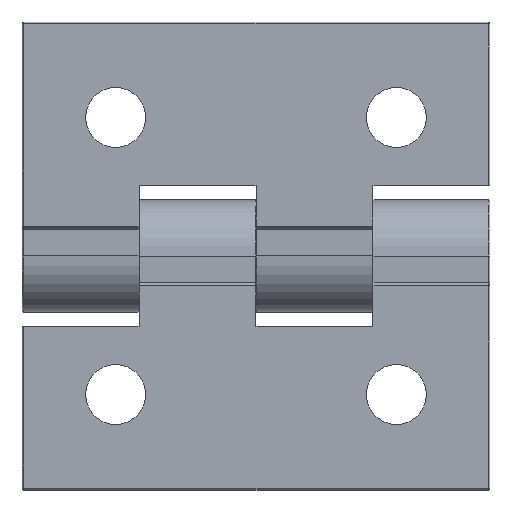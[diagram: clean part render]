
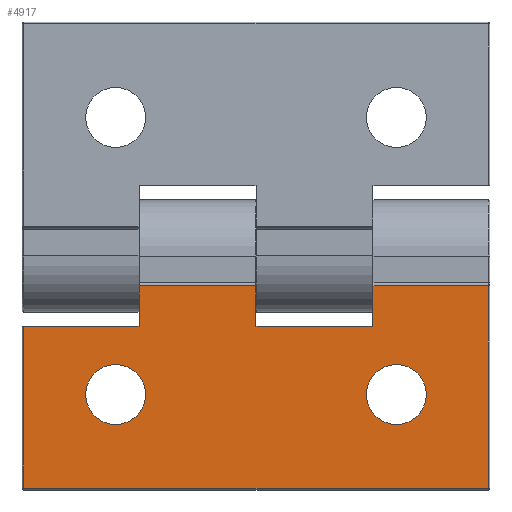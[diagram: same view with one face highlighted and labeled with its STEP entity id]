
A CAD part, front view. The second image highlights one B-rep face of the part: STEP entity #4917.
In plain terms, the highlighted planar face has unit normal (0, -1, 0).
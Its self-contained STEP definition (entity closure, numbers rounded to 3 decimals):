
#94 = CIRCLE ( 'NONE', #2763, 3.2 ) ;
#217 = DIRECTION ( 'NONE',  ( 0., 1., 0. ) ) ;
#272 = DIRECTION ( 'NONE',  ( 0., 0., 1. ) ) ;
#312 = CARTESIAN_POINT ( 'NONE',  ( 12.5, 0., -4.5 ) ) ;
#422 = VECTOR ( 'NONE', #3103, 1000. ) ;
#489 = FACE_BOUND ( 'NONE', #5097, .T. ) ;
#501 = LINE ( 'NONE', #2254, #4794 ) ;
#538 = CARTESIAN_POINT ( 'NONE',  ( -12.5, 0., -4.5 ) ) ;
#627 = DIRECTION ( 'NONE',  ( -1., 0., 0. ) ) ;
#651 = VECTOR ( 'NONE', #1811, 1000. ) ;
#665 = VERTEX_POINT ( 'NONE', #5276 ) ;
#704 = CARTESIAN_POINT ( 'NONE',  ( -24.8, 0., -4.5 ) ) ;
#714 = DIRECTION ( 'NONE',  ( -1., 0., 0. ) ) ;
#759 = DIRECTION ( 'NONE',  ( 0., 1., 0. ) ) ;
#765 = VERTEX_POINT ( 'NONE', #3257 ) ;
#904 = EDGE_LOOP ( 'NONE', ( #5105, #1541, #3007, #2299, #1287, #3672, #1771, #3837, #3342, #4576 ) ) ;
#907 = CARTESIAN_POINT ( 'NONE',  ( 24.8, 0., -21.8 ) ) ;
#1037 = VERTEX_POINT ( 'NONE', #4488 ) ;
#1169 = CARTESIAN_POINT ( 'NONE',  ( 25., 0., 0. ) ) ;
#1178 = CARTESIAN_POINT ( 'NONE',  ( -12.5, 0., -4.5 ) ) ;
#1287 = ORIENTED_EDGE ( 'NONE', *, *, #2827, .T. ) ;
#1319 = LINE ( 'NONE', #3632, #2052 ) ;
#1358 = EDGE_CURVE ( 'NONE', #3000, #5016, #2992, .T. ) ;
#1541 = ORIENTED_EDGE ( 'NONE', *, *, #4682, .T. ) ;
#1571 = DIRECTION ( 'NONE',  ( 0., 1., 0. ) ) ;
#1572 = EDGE_CURVE ( 'NONE', #1037, #2503, #2071, .T. ) ;
#1578 = DIRECTION ( 'NONE',  ( 0., 1., 0. ) ) ;
#1657 = LINE ( 'NONE', #2703, #422 ) ;
#1671 = ORIENTED_EDGE ( 'NONE', *, *, #2454, .T. ) ;
#1714 = EDGE_CURVE ( 'NONE', #5016, #3000, #4606, .T. ) ;
#1723 = VECTOR ( 'NONE', #3551, 1000. ) ;
#1771 = ORIENTED_EDGE ( 'NONE', *, *, #3188, .T. ) ;
#1811 = DIRECTION ( 'NONE',  ( 0., 0., 1. ) ) ;
#1826 = EDGE_LOOP ( 'NONE', ( #4435, #4458 ) ) ;
#1892 = EDGE_CURVE ( 'NONE', #4384, #2877, #3704, .T. ) ;
#1934 = DIRECTION ( 'NONE',  ( 0., 0., 1. ) ) ;
#1935 = VECTOR ( 'NONE', #3471, 1000. ) ;
#2052 = VECTOR ( 'NONE', #714, 1000. ) ;
#2071 = LINE ( 'NONE', #538, #1935 ) ;
#2191 = AXIS2_PLACEMENT_3D ( 'NONE', #4086, #1571, #4502 ) ;
#2254 = CARTESIAN_POINT ( 'NONE',  ( -24.8, 0., -22. ) ) ;
#2277 = EDGE_CURVE ( 'NONE', #765, #3390, #2855, .T. ) ;
#2299 = ORIENTED_EDGE ( 'NONE', *, *, #2277, .T. ) ;
#2432 = CARTESIAN_POINT ( 'NONE',  ( 15., 0., -11.8 ) ) ;
#2454 = EDGE_CURVE ( 'NONE', #665, #2566, #3556, .T. ) ;
#2462 = VECTOR ( 'NONE', #4526, 1000. ) ;
#2463 = EDGE_CURVE ( 'NONE', #2566, #665, #94, .T. ) ;
#2503 = VERTEX_POINT ( 'NONE', #1178 ) ;
#2566 = VERTEX_POINT ( 'NONE', #4578 ) ;
#2677 = VERTEX_POINT ( 'NONE', #4644 ) ;
#2703 = CARTESIAN_POINT ( 'NONE',  ( -12.5, 0., -4.5 ) ) ;
#2732 = CARTESIAN_POINT ( 'NONE',  ( -15., 0., -11.8 ) ) ;
#2763 = AXIS2_PLACEMENT_3D ( 'NONE', #2432, #5335, #2857 ) ;
#2827 = EDGE_CURVE ( 'NONE', #3390, #4384, #5203, .T. ) ;
#2848 = PLANE ( 'NONE',  #3756 ) ;
#2855 = LINE ( 'NONE', #4370, #1723 ) ;
#2857 = DIRECTION ( 'NONE',  ( 0., 0., 1. ) ) ;
#2877 = VERTEX_POINT ( 'NONE', #5162 ) ;
#2992 = CIRCLE ( 'NONE', #5219, 3.2 ) ;
#3000 = VERTEX_POINT ( 'NONE', #3102 ) ;
#3007 = ORIENTED_EDGE ( 'NONE', *, *, #4104, .T. ) ;
#3014 = EDGE_CURVE ( 'NONE', #5155, #4193, #5137, .T. ) ;
#3056 = VECTOR ( 'NONE', #627, 1000. ) ;
#3102 = CARTESIAN_POINT ( 'NONE',  ( -15., 0., -8.6 ) ) ;
#3103 = DIRECTION ( 'NONE',  ( -1., 0., 0. ) ) ;
#3112 = DIRECTION ( 'NONE',  ( 0., 0., -1. ) ) ;
#3119 = VECTOR ( 'NONE', #5323, 1000. ) ;
#3136 = DIRECTION ( 'NONE',  ( 0., 0., 1. ) ) ;
#3188 = EDGE_CURVE ( 'NONE', #2877, #5155, #5330, .T. ) ;
#3257 = CARTESIAN_POINT ( 'NONE',  ( -24.8, 0., -21.8 ) ) ;
#3312 = VECTOR ( 'NONE', #272, 1000. ) ;
#3342 = ORIENTED_EDGE ( 'NONE', *, *, #3722, .T. ) ;
#3390 = VERTEX_POINT ( 'NONE', #907 ) ;
#3435 = LINE ( 'NONE', #3577, #3312 ) ;
#3450 = CARTESIAN_POINT ( 'NONE',  ( 12.5, 0., -4.5 ) ) ;
#3471 = DIRECTION ( 'NONE',  ( 0., 0., -1. ) ) ;
#3540 = CARTESIAN_POINT ( 'NONE',  ( 0., 0., -4.5 ) ) ;
#3551 = DIRECTION ( 'NONE',  ( 1., 0., 0. ) ) ;
#3556 = CIRCLE ( 'NONE', #2191, 3.2 ) ;
#3577 = CARTESIAN_POINT ( 'NONE',  ( 0., 0., -4.5 ) ) ;
#3632 = CARTESIAN_POINT ( 'NONE',  ( 25., 0., -0.2 ) ) ;
#3672 = ORIENTED_EDGE ( 'NONE', *, *, #1892, .T. ) ;
#3697 = FACE_OUTER_BOUND ( 'NONE', #904, .T. ) ;
#3704 = LINE ( 'NONE', #5357, #2462 ) ;
#3722 = EDGE_CURVE ( 'NONE', #4193, #2677, #3435, .T. ) ;
#3756 = AXIS2_PLACEMENT_3D ( 'NONE', #1169, #1578, #4512 ) ;
#3837 = ORIENTED_EDGE ( 'NONE', *, *, #3014, .T. ) ;
#4086 = CARTESIAN_POINT ( 'NONE',  ( 15., 0., -11.8 ) ) ;
#4104 = EDGE_CURVE ( 'NONE', #4824, #765, #501, .T. ) ;
#4193 = VERTEX_POINT ( 'NONE', #4798 ) ;
#4316 = CARTESIAN_POINT ( 'NONE',  ( 24.8, 0., 0. ) ) ;
#4370 = CARTESIAN_POINT ( 'NONE',  ( 25., 0., -21.8 ) ) ;
#4384 = VERTEX_POINT ( 'NONE', #5381 ) ;
#4435 = ORIENTED_EDGE ( 'NONE', *, *, #1358, .T. ) ;
#4458 = ORIENTED_EDGE ( 'NONE', *, *, #1714, .T. ) ;
#4488 = CARTESIAN_POINT ( 'NONE',  ( -12.5, 0., -0.2 ) ) ;
#4502 = DIRECTION ( 'NONE',  ( 0., 0., 1. ) ) ;
#4512 = DIRECTION ( 'NONE',  ( 0., 0., 1. ) ) ;
#4526 = DIRECTION ( 'NONE',  ( -1., 0., 0. ) ) ;
#4576 = ORIENTED_EDGE ( 'NONE', *, *, #5401, .T. ) ;
#4578 = CARTESIAN_POINT ( 'NONE',  ( 15., 0., -8.6 ) ) ;
#4600 = CARTESIAN_POINT ( 'NONE',  ( -15., 0., -15. ) ) ;
#4606 = CIRCLE ( 'NONE', #5394, 3.2 ) ;
#4644 = CARTESIAN_POINT ( 'NONE',  ( 0., 0., -0.2 ) ) ;
#4682 = EDGE_CURVE ( 'NONE', #2503, #4824, #1657, .T. ) ;
#4752 = CARTESIAN_POINT ( 'NONE',  ( -15., 0., -11.8 ) ) ;
#4794 = VECTOR ( 'NONE', #3112, 1000. ) ;
#4798 = CARTESIAN_POINT ( 'NONE',  ( 0., 0., -4.5 ) ) ;
#4824 = VERTEX_POINT ( 'NONE', #704 ) ;
#4915 = FACE_BOUND ( 'NONE', #1826, .T. ) ;
#4917 = ADVANCED_FACE ( 'NONE', ( #4915, #489, #3697 ), #2848, .F. ) ;
#5016 = VERTEX_POINT ( 'NONE', #4600 ) ;
#5097 = EDGE_LOOP ( 'NONE', ( #5277, #1671 ) ) ;
#5105 = ORIENTED_EDGE ( 'NONE', *, *, #1572, .T. ) ;
#5137 = LINE ( 'NONE', #3540, #3056 ) ;
#5155 = VERTEX_POINT ( 'NONE', #3450 ) ;
#5162 = CARTESIAN_POINT ( 'NONE',  ( 12.5, 0., -0.2 ) ) ;
#5203 = LINE ( 'NONE', #4316, #651 ) ;
#5219 = AXIS2_PLACEMENT_3D ( 'NONE', #4752, #759, #1934 ) ;
#5276 = CARTESIAN_POINT ( 'NONE',  ( 15., 0., -15. ) ) ;
#5277 = ORIENTED_EDGE ( 'NONE', *, *, #2463, .T. ) ;
#5323 = DIRECTION ( 'NONE',  ( 0., 0., -1. ) ) ;
#5330 = LINE ( 'NONE', #312, #3119 ) ;
#5335 = DIRECTION ( 'NONE',  ( 0., 1., 0. ) ) ;
#5357 = CARTESIAN_POINT ( 'NONE',  ( 25., 0., -0.2 ) ) ;
#5381 = CARTESIAN_POINT ( 'NONE',  ( 24.8, 0., -0.2 ) ) ;
#5394 = AXIS2_PLACEMENT_3D ( 'NONE', #2732, #217, #3136 ) ;
#5401 = EDGE_CURVE ( 'NONE', #2677, #1037, #1319, .T. ) ;
